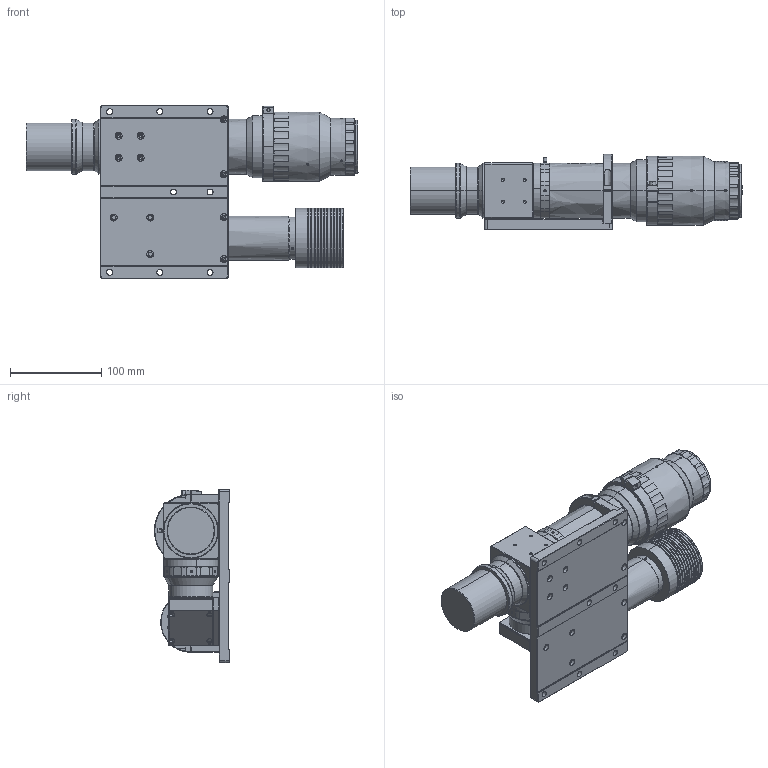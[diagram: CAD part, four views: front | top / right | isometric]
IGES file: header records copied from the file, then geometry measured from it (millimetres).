
Start section: SolidWorks IGES file using analytic representation for surfaces
Global section: file name: D:\W\00-ﾍ簟ﾎﾍｼｹ､ﾗｨｽﾃﾓﾚｲﾎｿｼﾍ簟ﾎ｣ｩ\01-ｰｽｹ､\2025-3-28-DTCA35F-14.6CL30-G-M58-AL\ｷ｢ｿﾍｻｧ3D\ﾁ羮1^DTCA35F-14.6C-G-M58-AL-FL50-XX.IGS; native system: SolidWorks 2017; preprocessor: SolidWorks 2017; author: jg; date: 250328.163556; units: millimetre
Bounding box: 363.45 x 82.53 x 190 mm (x, y, z)
Surface area: 272243.1 mm2 (no closed solid volume)
Topology: 0 solids, 0 shells, 1452 faces, 20931 edges, 20885 vertices
Faces by surface type: revolution 959, bspline 493
